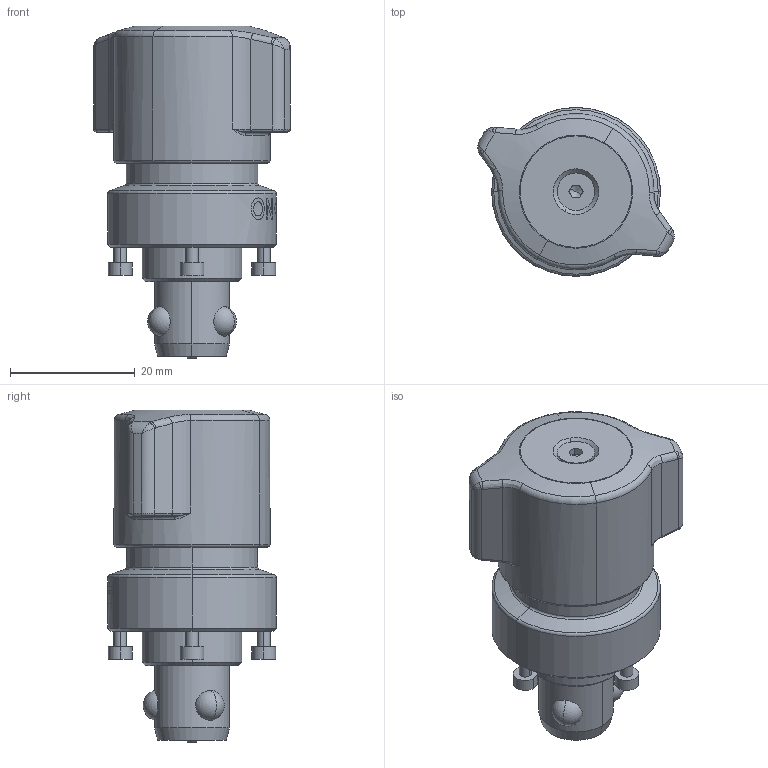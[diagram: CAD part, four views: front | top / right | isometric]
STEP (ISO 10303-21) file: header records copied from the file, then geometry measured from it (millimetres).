
FILE_DESCRIPTION (( 'STEP AP203' ), '1' );
FILE_NAME ('QCWESA1227-16S.STEP', '2024-03-06T02:10:58', ( '' ), ( '' ), 'SwSTEP 2.0', 'SolidWorks 2022', '' );
FILE_SCHEMA (( 'CONFIG_CONTROL_DESIGN' ));
Length unit declared in the file: millimetre
Products named in the file (7): QCWESA1227-16S_01_ﾃﾞﾌｫﾙﾄ; QCWESA1227-16S_03_ﾃﾞﾌｫﾙﾄ; QCWESA1227-16S_04_ﾃﾞﾌｫﾙﾄ; QCWESA1227-16S_05_ﾃﾞﾌｫﾙﾄ; QCWESA1227-16S_02_ﾃﾞﾌｫﾙﾄ; QCWESA1227-16S_06_ﾃﾞﾌｫﾙﾄ; QCWESA1227-16S
Assembly tree (6 placements, depth 2):
  QCWESA1227-16S
    QCWESA1227-16S_01_ﾃﾞﾌｫﾙﾄ
    QCWESA1227-16S_02_ﾃﾞﾌｫﾙﾄ
    QCWESA1227-16S_03_ﾃﾞﾌｫﾙﾄ
    QCWESA1227-16S_04_ﾃﾞﾌｫﾙﾄ
    QCWESA1227-16S_05_ﾃﾞﾌｫﾙﾄ
    QCWESA1227-16S_06_ﾃﾞﾌｫﾙﾄ
Bounding box: 31.5 x 27 x 53.17 mm (x, y, z)
Volume: 19404.4 mm3; surface area: 12359.3 mm2
Topology: 6 solids, 6 shells, 286 faces, 657 edges, 407 vertices
Faces by surface type: plane 115, cylinder 78, bspline 44, torus 27, cone 16, sphere 6
Entity records: 12152 total; most frequent: CARTESIAN_POINT 5167, ORIENTED_EDGE 1294, DIRECTION 1285, EDGE_CURVE 647, AXIS2_PLACEMENT_3D 509, VERTEX_POINT 407, EDGE_LOOP 322, ADVANCED_FACE 286
